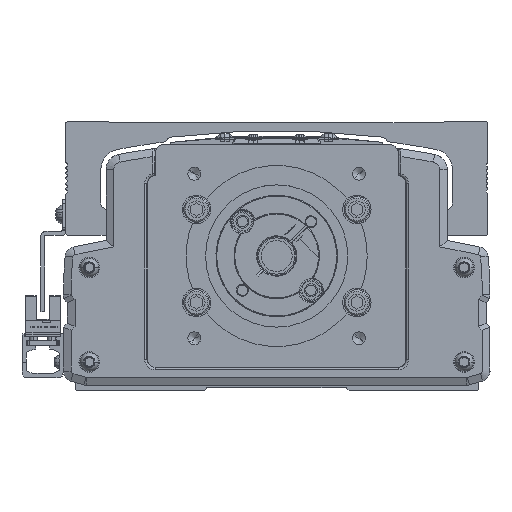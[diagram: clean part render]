
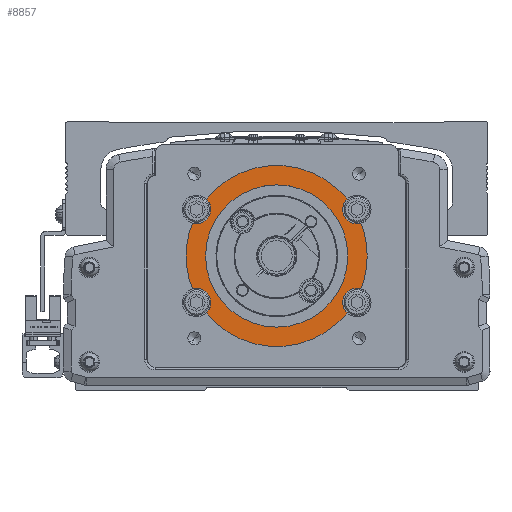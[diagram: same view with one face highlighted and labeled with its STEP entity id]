
A CAD part, front view. The second image highlights one B-rep face of the part: STEP entity #8857.
In plain terms, the highlighted planar face has unit normal (0, -1, 0).
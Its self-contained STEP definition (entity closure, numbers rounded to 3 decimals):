
#8857=ADVANCED_FACE('',(#18814,#18815),#18816,.F.);
#18814=FACE_OUTER_BOUND('',#32329,.T.);
#18815=FACE_BOUND('',#32330,.T.);
#18816=PLANE('',#32331);
#32329=EDGE_LOOP('',(#58122,#58123,#58124,#58125,#58126,#58127,#58128,#58129,#58130,#58131,#58132,#58133,#58134,#58135));
#32330=EDGE_LOOP('',(#58136,#58137));
#32331=AXIS2_PLACEMENT_3D('',#58138,#58139,#58140);
#58122=ORIENTED_EDGE('',*,*,#79740,.F.);
#58123=ORIENTED_EDGE('',*,*,#78078,.T.);
#58124=ORIENTED_EDGE('',*,*,#79741,.T.);
#58125=ORIENTED_EDGE('',*,*,#76838,.F.);
#58126=ORIENTED_EDGE('',*,*,#79742,.F.);
#58127=ORIENTED_EDGE('',*,*,#79743,.T.);
#58128=ORIENTED_EDGE('',*,*,#79744,.F.);
#58129=ORIENTED_EDGE('',*,*,#79745,.F.);
#58130=ORIENTED_EDGE('',*,*,#76440,.T.);
#58131=ORIENTED_EDGE('',*,*,#77961,.T.);
#58132=ORIENTED_EDGE('',*,*,#79746,.F.);
#58133=ORIENTED_EDGE('',*,*,#78254,.F.);
#58134=ORIENTED_EDGE('',*,*,#79747,.T.);
#58135=ORIENTED_EDGE('',*,*,#78115,.F.);
#58136=ORIENTED_EDGE('',*,*,#79748,.F.);
#58137=ORIENTED_EDGE('',*,*,#77154,.F.);
#58138=CARTESIAN_POINT('',(-600.,-96.778,0.));
#58139=DIRECTION('',(0.,1.0,0.));
#58140=DIRECTION('',(-1.0,0.,0.));
#76440=EDGE_CURVE('',#93681,#93679,#93682,.T.);
#76838=EDGE_CURVE('',#94249,#94251,#94252,.T.);
#77154=EDGE_CURVE('',#94711,#94713,#94714,.T.);
#77961=EDGE_CURVE('',#93679,#95826,#95828,.T.);
#78078=EDGE_CURVE('',#95997,#95995,#95998,.T.);
#78115=EDGE_CURVE('',#96041,#96043,#96044,.T.);
#78254=EDGE_CURVE('',#96224,#96226,#96227,.T.);
#79740=EDGE_CURVE('',#95997,#96041,#98164,.T.);
#79741=EDGE_CURVE('',#95995,#94251,#98165,.T.);
#79742=EDGE_CURVE('',#98166,#94249,#98167,.T.);
#79743=EDGE_CURVE('',#98166,#98168,#98169,.T.);
#79744=EDGE_CURVE('',#98170,#98168,#98171,.T.);
#79745=EDGE_CURVE('',#93681,#98170,#98172,.T.);
#79746=EDGE_CURVE('',#96226,#95826,#98173,.T.);
#79747=EDGE_CURVE('',#96224,#96043,#98174,.T.);
#79748=EDGE_CURVE('',#94713,#94711,#98175,.T.);
#93679=VERTEX_POINT('',#117437);
#93681=VERTEX_POINT('',#117440);
#93682=CIRCLE('',#117441,35.0);
#94249=VERTEX_POINT('',#118260);
#94251=VERTEX_POINT('',#118263);
#94252=CIRCLE('',#118264,5.5);
#94711=VERTEX_POINT('',#118943);
#94713=VERTEX_POINT('',#118946);
#94714=CIRCLE('',#118947,27.5);
#95826=VERTEX_POINT('',#120554);
#95828=CIRCLE('',#120557,35.0);
#95995=VERTEX_POINT('',#120779);
#95997=VERTEX_POINT('',#120782);
#95998=CIRCLE('',#120783,35.0);
#96041=VERTEX_POINT('',#120840);
#96043=VERTEX_POINT('',#120843);
#96044=CIRCLE('',#120844,5.5);
#96224=VERTEX_POINT('',#121104);
#96226=VERTEX_POINT('',#121107);
#96227=CIRCLE('',#121108,5.5);
#98164=CIRCLE('',#123975,5.5);
#98165=CIRCLE('',#123976,35.0);
#98166=VERTEX_POINT('',#123977);
#98167=CIRCLE('',#123978,5.5);
#98168=VERTEX_POINT('',#123979);
#98169=CIRCLE('',#123980,35.0);
#98170=VERTEX_POINT('',#123981);
#98171=CIRCLE('',#123982,5.5);
#98172=CIRCLE('',#123983,5.5);
#98173=CIRCLE('',#123984,5.5);
#98174=CIRCLE('',#123985,35.0);
#98175=CIRCLE('',#123986,27.5);
#117437=CARTESIAN_POINT('',(-565.,-96.778,0.));
#117440=CARTESIAN_POINT('',(-567.4,-96.778,-12.738));
#117441=AXIS2_PLACEMENT_3D('',#137344,#137345,#137346);
#118260=CARTESIAN_POINT('',(-625.5,-96.778,-18.));
#118263=CARTESIAN_POINT('',(-632.6,-96.778,-12.738));
#118264=AXIS2_PLACEMENT_3D('',#137823,#137824,#137825);
#118943=CARTESIAN_POINT('',(-627.5,-96.778,0.));
#118946=CARTESIAN_POINT('',(-572.5,-96.778,0.));
#118947=AXIS2_PLACEMENT_3D('',#138212,#138213,#138214);
#120554=CARTESIAN_POINT('',(-567.4,-96.778,12.738));
#120557=AXIS2_PLACEMENT_3D('',#139202,#139203,#139204);
#120779=CARTESIAN_POINT('',(-635.,-96.778,0.));
#120782=CARTESIAN_POINT('',(-632.6,-96.778,12.738));
#120783=AXIS2_PLACEMENT_3D('',#139339,#139340,#139341);
#120840=CARTESIAN_POINT('',(-625.5,-96.778,18.));
#120843=CARTESIAN_POINT('',(-627.223,-96.778,21.998));
#120844=AXIS2_PLACEMENT_3D('',#139387,#139388,#139389);
#121104=CARTESIAN_POINT('',(-572.777,-96.778,21.998));
#121107=CARTESIAN_POINT('',(-574.5,-96.778,18.));
#121108=AXIS2_PLACEMENT_3D('',#139540,#139541,#139542);
#123975=AXIS2_PLACEMENT_3D('',#141339,#141340,#141341);
#123976=AXIS2_PLACEMENT_3D('',#141342,#141343,#141344);
#123977=CARTESIAN_POINT('',(-627.223,-96.778,-21.998));
#123978=AXIS2_PLACEMENT_3D('',#141345,#141346,#141347);
#123979=CARTESIAN_POINT('',(-572.777,-96.778,-21.998));
#123980=AXIS2_PLACEMENT_3D('',#141348,#141349,#141350);
#123981=CARTESIAN_POINT('',(-574.5,-96.778,-18.));
#123982=AXIS2_PLACEMENT_3D('',#141351,#141352,#141353);
#123983=AXIS2_PLACEMENT_3D('',#141354,#141355,#141356);
#123984=AXIS2_PLACEMENT_3D('',#141357,#141358,#141359);
#123985=AXIS2_PLACEMENT_3D('',#141360,#141361,#141362);
#123986=AXIS2_PLACEMENT_3D('',#141363,#141364,#141365);
#137344=CARTESIAN_POINT('',(-600.,-96.778,0.));
#137345=DIRECTION('',(0.,-1.0,0.));
#137346=DIRECTION('',(-1.0,0.,0.));
#137823=CARTESIAN_POINT('',(-631.,-96.778,-18.));
#137824=DIRECTION('',(0.,-1.0,0.));
#137825=DIRECTION('',(-1.0,0.,0.));
#138212=CARTESIAN_POINT('',(-600.,-96.778,0.));
#138213=DIRECTION('',(0.,-1.0,0.));
#138214=DIRECTION('',(-1.0,0.,0.));
#139202=CARTESIAN_POINT('',(-600.,-96.778,0.));
#139203=DIRECTION('',(0.,-1.0,0.));
#139204=DIRECTION('',(-1.0,0.,0.));
#139339=CARTESIAN_POINT('',(-600.,-96.778,0.));
#139340=DIRECTION('',(0.,-1.0,0.));
#139341=DIRECTION('',(-1.0,0.,0.));
#139387=CARTESIAN_POINT('',(-631.,-96.778,18.));
#139388=DIRECTION('',(0.,-1.0,0.));
#139389=DIRECTION('',(-1.0,0.,0.));
#139540=CARTESIAN_POINT('',(-569.,-96.778,18.));
#139541=DIRECTION('',(0.,-1.0,0.));
#139542=DIRECTION('',(1.0,0.,0.));
#141339=CARTESIAN_POINT('',(-631.,-96.778,18.));
#141340=DIRECTION('',(0.,-1.0,0.));
#141341=DIRECTION('',(-1.0,0.,0.));
#141342=CARTESIAN_POINT('',(-600.,-96.778,0.));
#141343=DIRECTION('',(0.,-1.0,0.));
#141344=DIRECTION('',(-1.0,0.,0.));
#141345=CARTESIAN_POINT('',(-631.,-96.778,-18.));
#141346=DIRECTION('',(0.,-1.0,0.));
#141347=DIRECTION('',(-1.0,0.,0.));
#141348=CARTESIAN_POINT('',(-600.,-96.778,0.));
#141349=DIRECTION('',(0.,-1.0,0.));
#141350=DIRECTION('',(-1.0,0.,0.));
#141351=CARTESIAN_POINT('',(-569.,-96.778,-18.));
#141352=DIRECTION('',(0.,-1.0,0.));
#141353=DIRECTION('',(1.0,0.,0.));
#141354=CARTESIAN_POINT('',(-569.,-96.778,-18.));
#141355=DIRECTION('',(0.,-1.0,0.));
#141356=DIRECTION('',(1.0,0.,0.));
#141357=CARTESIAN_POINT('',(-569.,-96.778,18.));
#141358=DIRECTION('',(0.,-1.0,0.));
#141359=DIRECTION('',(1.0,0.,0.));
#141360=CARTESIAN_POINT('',(-600.,-96.778,0.));
#141361=DIRECTION('',(0.,-1.0,0.));
#141362=DIRECTION('',(-1.0,0.,0.));
#141363=CARTESIAN_POINT('',(-600.,-96.778,0.));
#141364=DIRECTION('',(0.,-1.0,0.));
#141365=DIRECTION('',(-1.0,0.,0.));
